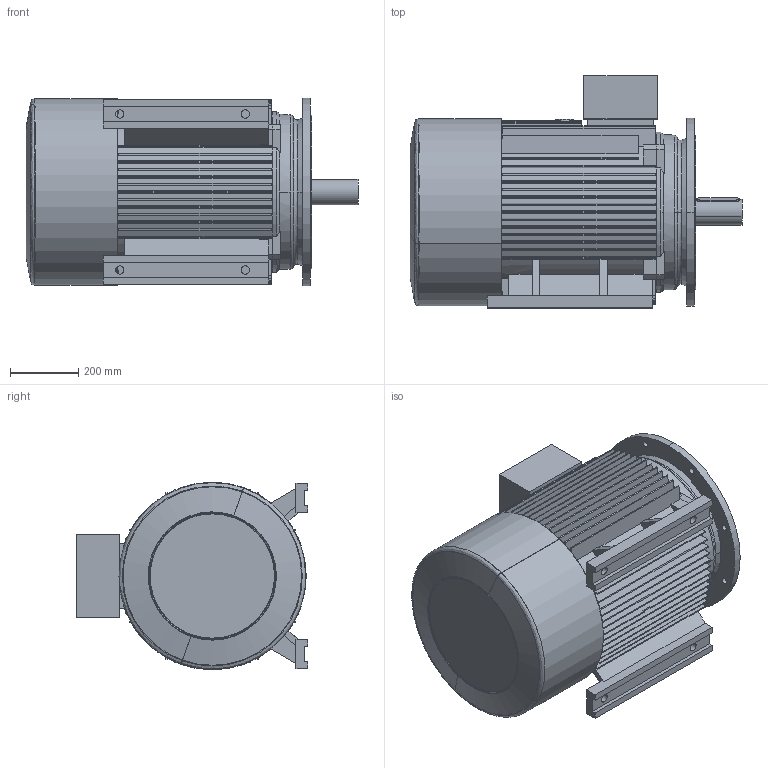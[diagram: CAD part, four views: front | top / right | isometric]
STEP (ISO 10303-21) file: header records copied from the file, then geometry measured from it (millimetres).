
FILE_DESCRIPTION (( 'STEP AP203' ), '1' );
FILE_NAME ('M3-280S-4p-FF-B35.STEP', '2019-07-09T10:51:53', ( '' ), ( '' ), 'SwSTEP 2.0', 'SolidWorks 2012', '' );
FILE_SCHEMA (( 'CONFIG_CONTROL_DESIGN' ));
Length unit declared in the file: millimetre
Products named in the file (7): M3-280S-4p-FF-B35; Y2-280S+ｷﾎｨB3_-ｼ+､; Y2-280-4-ｦﾈﾁﾂ-ｩﾃ_-ｼ+､; Ã¦Íß¦ð-Ô©ÃY2-280-4_-¼+¤; Y2-280-4.6.8ﾀiﾍ_-ｼ+､; Y2-280S.M-4.6.8ﾍﾟ_-ｼ+､; Y2-280ｦｾﾂ-ｩﾃ_-ｼ+､
Assembly tree (6 placements, depth 2):
  M3-280S-4p-FF-B35
    Y2-280S.M-4.6.8ﾍﾟ_-ｼ+､
    Y2-280ｦｾﾂ-ｩﾃ_-ｼ+､
    Ã¦Íß¦ð-Ô©ÃY2-280-4_-¼+¤
    Y2-280-4.6.8ﾀiﾍ_-ｼ+､
    Y2-280-4-ｦﾈﾁﾂ-ｩﾃ_-ｼ+､
    Y2-280S+ｷﾎｨB3_-ｼ+､
Bounding box: 972.53 x 679 x 550 mm (x, y, z)
Volume: 38206345.9 mm3; surface area: 7011151.7 mm2
Topology: 6 solids, 6 shells, 794 faces, 2124 edges, 1407 vertices
Faces by surface type: plane 450, cylinder 295, cone 33, bspline 16
Entity records: 27116 total; most frequent: CARTESIAN_POINT 5767, DIRECTION 4409, ORIENTED_EDGE 4248, EDGE_CURVE 2124, AXIS2_PLACEMENT_3D 1565, VERTEX_POINT 1407, LINE 1279, VECTOR 1279
